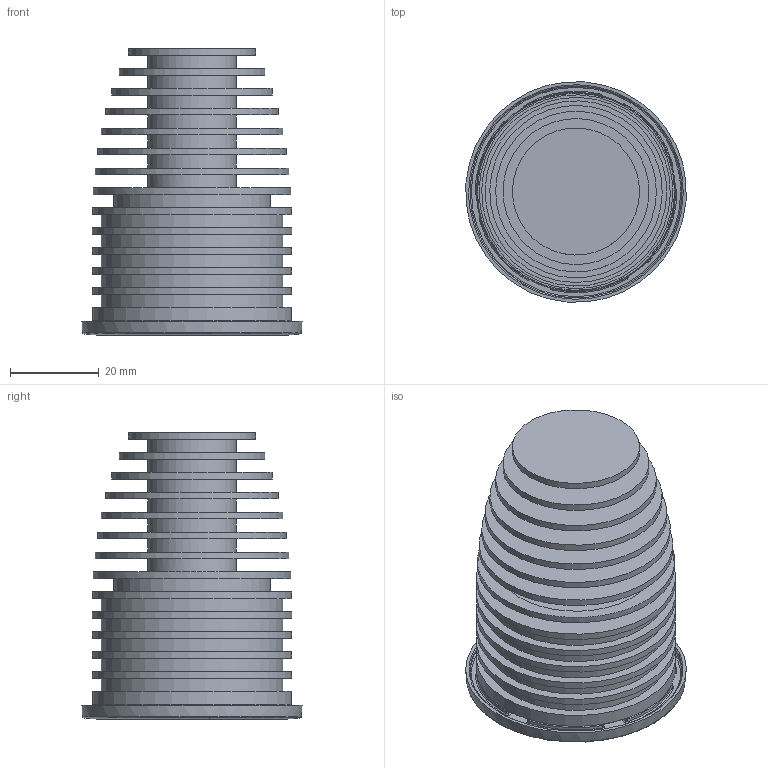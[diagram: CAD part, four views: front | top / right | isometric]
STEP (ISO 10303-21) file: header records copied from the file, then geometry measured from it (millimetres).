
FILE_DESCRIPTION(/* description */ (''),/* implementation_level */ '2;1');
FILE_NAME(/* name */ 'C:/Users/elena/Desktop/Kiwi/Pubblico/LF010.step',/* time_stamp */ '2020-06-18T15:33:13+02:00',/* author */ (''),/* organization */ (''),/* preprocessor_version */ 'ST-DEVELOPER v18.1',/* originating_system */ 'Autodesk Translation Framework v9.3.0.1241',/* authorisation */ '');
FILE_SCHEMA (('CONFIG_CONTROL_DESIGN','AUTOMOTIVE_DESIGN { 1 0 10303 214 3 1 1 }'));
Length unit declared in the file: millimetre
Products named in the file (1): (Unsaved)
Bounding box: 49.73 x 49.73 x 64.81 mm (x, y, z)
Volume: 34713.8 mm3; surface area: 31693.9 mm2
Topology: 1 solids, 3 shells, 310 faces, 849 edges, 528 vertices
Faces by surface type: plane 78, cylinder 72, cone 64, torus 51, bspline 38, sphere 7
Full cylindrical faces by diameter (mm): 5 x1, 20 x7, 28.712 x1, 32.995 x1, 35.5 x1, 36.333 x1, 38.971 x1, 39 x1, 41 x5, 41.044 x1, 42.634 x1, 43.794 x1, 44.557 x1, 45 x5, 45.088 x1, 47.9 x1
Entity records: 14105 total; most frequent: CARTESIAN_POINT 6216, DIRECTION 1738, ORIENTED_EDGE 1659, EDGE_CURVE 845, AXIS2_PLACEMENT_3D 747, VERTEX_POINT 530, CIRCLE 437, EDGE_LOOP 315
